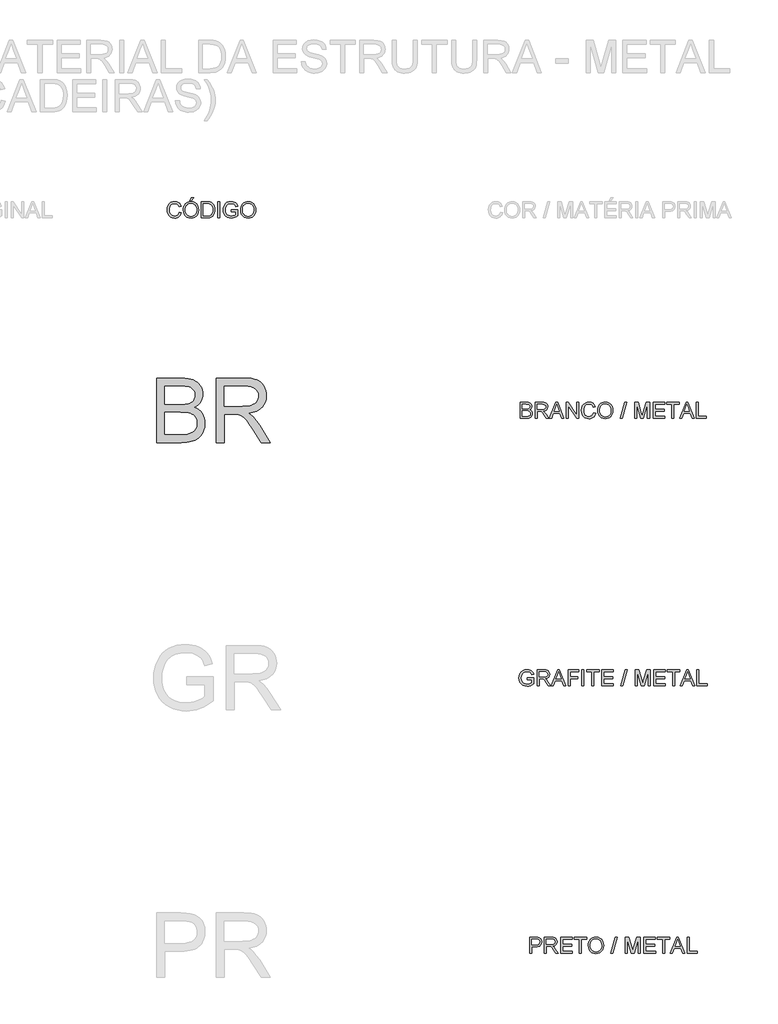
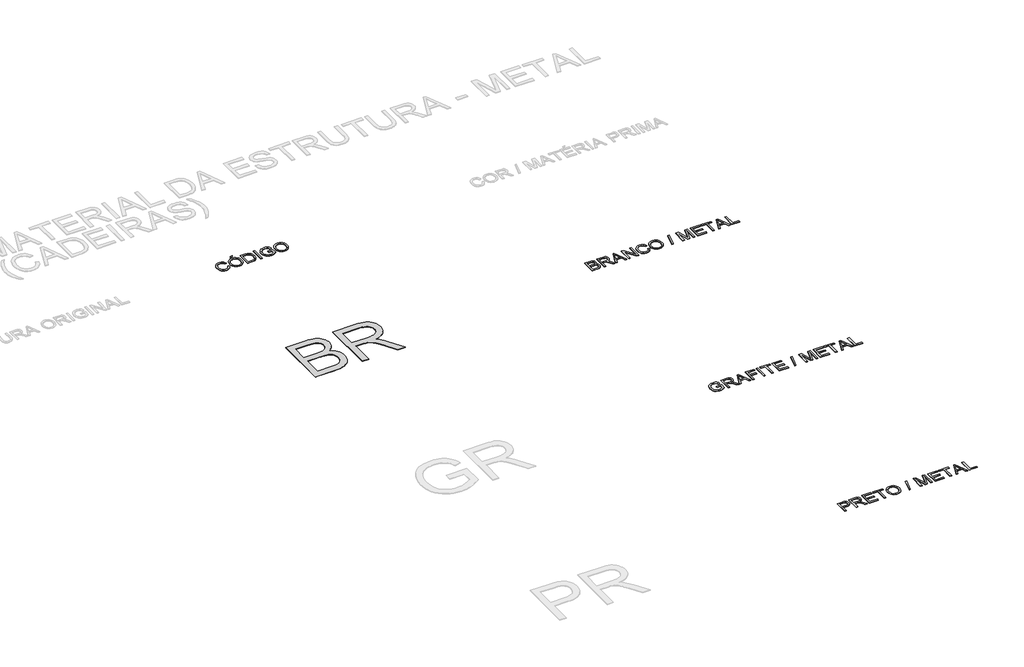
# One storey, part 28 of 35: 5 proxies.
"""IFC4 building model written with IfcOpenShell, lengths in millimetres."""

from ifc_helpers import new_model, si_unit, origin, origin_with_axes, place, context, project, spatial, polyline, outline, extrude, element, save

model = new_model("IFC4")

# Units and contexts
model_context = context("Model", 3, world=origin())
ifc_project = project(units=[si_unit("LENGTHUNIT", "METRE", prefix="MILLI")], contexts=[model_context])

# Site, building, storey
site = spatial("IfcSite", under=ifc_project)
building = spatial("IfcBuilding", under=site)
storey = spatial("IfcBuildingStorey", under=building, Name="Marelli - Linha YOU - Planta Baixa", Elevation=0.0)

# Proxies
placement = place(None, origin())
element("IfcBuildingElementProxy", 1, Name="1200mm Arial", ObjectType="1200mm Arial", at=placement, inside=storey, context=model_context, shape_type="SweptSolid", body=[
    extrude(outline(polyline([(-124.6247047, -20480.5663201), (-124.6247047, -19275.0905983), (335.374942, -19275.0905983), (402.0995389, -19277.3070873), (461.8895602, -19283.9565544), (514.7450058, -19295.0389995), (560.6658759, -19310.5544226), (600.8201956, -19330.6683707), (636.3759905, -19355.5463906), (667.3332604, -19385.1884824), (693.6920053, -19419.594646), (714.7440525, -19456.8243039), (729.7812291, -19494.9368786), (738.803535, -19533.9323701), (741.8109703, -19573.8107784), (739.2817816, -19610.6449631), (731.6942154, -19646.393896), (719.0482718, -19681.057577), (701.3439508, -19714.6360061), (678.5260701, -19746.0807196), (650.5394473, -19774.3432539), (617.3840825, -19799.4236089), (579.0599756, -19821.3217847), (624.5393873, -19840.7091659), (664.4453867, -19865.9090825), (698.7779739, -19896.9215347), (727.5371489, -19933.7465224), (750.2630591, -19975.2620056), (766.4958522, -20020.3459441), (776.235528, -20068.998338), (779.4820866, -20121.2191872), (777.2655976, -20164.0130603), (770.6161305, -20205.2802231), (759.5336854, -20245.0206756), (744.0182623, -20283.2344179), (725.2286894, -20318.5326953), (704.323795, -20349.5267534), (681.3035791, -20376.2165921), (656.1680418, -20398.6022115), (628.3285718, -20417.6033166), (597.196558, -20434.1396123), (562.7720003, -20448.2110986), (525.0548987, -20459.8177755), (483.4566421, -20468.8952638), (437.3886193, -20475.3791839), (331.8432749, -20480.5663201), (-124.6247047, -20480.5663201)]), holes=[polyline([(26.0597605, -19764.8151103), (301.2354929, -19764.8151103), (397.4734228, -19761.5777487), (461.9263484, -19751.865664), (492.0282926, -19742.0892), (518.1755054, -19729.5352269), (540.3679868, -19714.2037448), (558.6057367, -19696.0947536), (572.8335729, -19675.337012), (582.996313, -19652.0592787), (589.093957, -19626.2615538), (591.1265051, -19597.9438372), (589.2319128, -19570.8309342), (583.548136, -19545.4102883), (574.0751746, -19521.6818996), (560.8130287, -19499.6457681), (544.0192156, -19480.1204312), (523.9512528, -19463.9244264), (500.6091402, -19451.0577536), (473.9928778, -19441.5204129), (440.6995572, -19434.6318225), (397.32627, -19429.7114008), (280.3397955, -19425.7750635), (26.0597605, -19425.7750635), (26.0597605, -19764.8151103)]), polyline([(26.0597605, -20329.8818548), (335.0806364, -20329.8818548), (402.7709235, -20328.4103269), (446.916763, -20323.9957429), (498.8249125, -20310.9359321), (541.5360121, -20291.180669), (576.2640725, -20262.8905435), (604.2231041, -20224.2261458), (614.9744554, -20201.4358562), (622.6539921, -20176.9165212), (627.261714, -20150.6681409), (628.7976214, -20122.6907152), (626.9949996, -20090.0963704), (621.5871343, -20059.7093176), (612.5740254, -20031.5295568), (599.955673, -20005.5570879), (583.2998156, -19982.536872), (562.1741921, -19963.2138703), (536.5788022, -19947.5880825), (506.5136462, -19935.6595088), (470.6543487, -19926.839538), (427.6765346, -19920.5395588), (320.3653566, -19915.4995755), (26.0597605, -19915.4995755), (26.0597605, -20329.8818548)])]), origin_with_axes(), (0.0, 0.0, 1.0), 10.0),
    extrude(outline(polyline([(986.6732263, -20480.5663201), (986.6732263, -19275.0905983), (1506.1226035, -19275.0905983), (1580.6830868, -19277.1231463), (1645.7338206, -19283.2207904), (1701.2748049, -19293.3835305), (1747.3060395, -19307.6113666), (1786.5038661, -19326.9987478), (1821.5446261, -19352.6401229), (1852.4283196, -19384.5354918), (1879.1549466, -19422.6848547), (1900.7220286, -19465.0372694), (1916.1270871, -19509.5417938), (1925.3701222, -19556.1984278), (1928.4511339, -19605.0071715), (1923.3467713, -19666.9217113), (1908.0336832, -19723.7594796), (1882.5118698, -19775.5204763), (1846.781331, -19822.2047015), (1824.9728265, -19843.2705442), (1800.3822144, -19862.3222331), (1742.8546674, -19894.383149), (1674.19869, -19918.3874491), (1594.4142823, -19934.3351336), (1644.0783517, -19966.7823256), (1680.0572108, -19998.7880592), (1741.7878096, -20071.9965762), (1802.1940332, -20153.8871084), (2003.2047554, -20480.5663201), (1828.0929257, -20480.5663201), (1671.2280429, -20230.7008689), (1608.4673745, -20135.3458558), (1557.9203884, -20065.3011239), (1515.7978999, -20017.0717943), (1478.3107246, -19987.1629881), (1442.8101121, -19969.615017), (1406.647312, -19958.4681925), (1371.4042168, -19954.495067), (1319.2385499, -19953.1706918), (1137.3576915, -19953.1706918), (1137.3576915, -20480.5663201), (986.6732263, -20480.5663201)]), holes=[polyline([(1137.3576915, -19802.4862266), (1474.6319047, -19802.4862266), (1571.495234, -19797.1519376), (1611.7875095, -19790.4840765), (1646.6535256, -19781.1490708), (1676.8750315, -19768.8802063), (1703.2337765, -19753.4107684), (1725.7297605, -19734.7407571), (1744.3629836, -19712.8701725), (1758.9770958, -19688.8750694), (1769.4157474, -19663.8315026), (1775.6789384, -19637.7394721), (1777.7666687, -19610.5989779), (1773.7843461, -19572.0633389), (1761.8373783, -19537.0961552), (1741.9257653, -19505.6974269), (1714.0495071, -19477.867154), (1677.5648103, -19455.0768644), (1631.8278812, -19438.7980861), (1576.83872, -19429.0308192), (1512.5973266, -19425.7750635), (1137.3576915, -19425.7750635), (1137.3576915, -19802.4862266)])]), origin_with_axes(), (0.0, 0.0, 1.0), 10.0),
])
element("IfcBuildingElementProxy", 2, Name="300mm Arial", ObjectType="300mm Arial", at=placement, inside=storey, context=model_context, shape_type="SweptSolid", body=[
    extrude(outline(polyline([(6847.979667, -30030.5663201), (6847.979667, -29729.1973896), (6959.6686407, -29729.1973896), (7004.6973969, -29732.0668692), (7024.7745568, -29737.4287493), (7041.3016554, -29746.1567496), (7054.6097866, -29758.6463433), (7065.0300441, -29775.2930036), (7071.7622846, -29794.9287051), (7074.0063648, -29816.3854225), (7072.4911508, -29834.8852883), (7067.9455089, -29851.9044291), (7060.3694391, -29867.4428449), (7049.7629413, -29881.5005356), (7035.2017121, -29893.1531978), (7015.7614479, -29901.476528), (6991.4421488, -29906.470526), (6962.2438147, -29908.1351921), (6885.6507833, -29908.1351921), (6885.6507833, -30030.5663201), (6847.979667, -30030.5663201)]), holes=[polyline([(6885.6507833, -29870.4640758), (6964.4511066, -29870.4640758), (6997.8547918, -29867.005985), (7019.9277115, -29856.6317127), (7032.2333643, -29839.9850525), (7036.3352485, -29817.7097977), (7033.9164244, -29800.7872259), (7026.659952, -29786.5134045), (7015.4671423, -29775.7712502), (7001.2393062, -29769.4436799), (6963.5681899, -29766.8685059), (6885.6507833, -29766.8685059), (6885.6507833, -29870.4640758)])]), origin_with_axes(), (0.0, 0.0, 1.0), 10.0),
    extrude(outline(polyline([(7125.8041497, -30030.5663201), (7125.8041497, -29729.1973896), (7255.666494, -29729.1973896), (7290.5692983, -29731.2299376), (7315.962353, -29737.3275817), (7334.5219997, -29748.5847708), (7348.9245798, -29766.0959537), (7358.1676149, -29787.8101885), (7361.2486266, -29811.6765329), (7356.144264, -29841.3646099), (7340.8311759, -29865.9759154), (7329.2313967, -29876.0052983), (7314.84951, -29884.0205273), (7277.7394137, -29894.0085235), (7299.1501459, -29910.1217548), (7329.6843515, -29948.8965171), (7379.937032, -30030.5663201), (7336.1590746, -30030.5663201), (7296.9428539, -29968.0999573), (7268.6159403, -29926.750021), (7248.7135243, -29907.2154871), (7230.7976712, -29900.0417882), (7208.9454806, -29898.717413), (7163.475266, -29898.717413), (7163.475266, -30030.5663201), (7125.8041497, -30030.5663201)]), holes=[polyline([(7163.475266, -29861.0462967), (7247.7938193, -29861.0462967), (7272.0096517, -29859.7127245), (7290.7992246, -29855.7120078), (7304.9442873, -29848.7774322), (7315.226589, -29838.6422832), (7321.48978, -29826.3826157), (7323.5775103, -29813.0744845), (7319.5951877, -29794.6987789), (7307.6482199, -29779.8915286), (7287.0928135, -29770.1242616), (7257.2851748, -29766.8685059), (7163.475266, -29766.8685059), (7163.475266, -29861.0462967)])]), origin_with_axes(), (0.0, 0.0, 1.0), 10.0),
    extrude(outline(polyline([(7427.1730802, -30030.5663201), (7427.1730802, -29729.1973896), (7643.7819989, -29729.1973896), (7643.7819989, -29766.8685059), (7464.8441965, -29766.8685059), (7464.8441965, -29856.3374072), (7634.3642199, -29856.3374072), (7634.3642199, -29894.0085235), (7464.8441965, -29894.0085235), (7464.8441965, -29992.8952038), (7648.4908885, -29992.8952038), (7648.4908885, -30030.5663201), (7427.1730802, -30030.5663201)])), origin_with_axes(), (0.0, 0.0, 1.0), 10.0),
    extrude(outline(polyline([(7780.3397955, -30030.5663201), (7780.3397955, -29766.8685059), (7681.4531152, -29766.8685059), (7681.4531152, -29729.1973896), (7916.8975922, -29729.1973896), (7916.8975922, -29766.8685059), (7818.0109119, -29766.8685059), (7818.0109119, -30030.5663201), (7780.3397955, -30030.5663201)])), origin_with_axes(), (0.0, 0.0, 1.0), 10.0),
    extrude(outline(polyline([(7945.1509294, -29883.8549804), (7947.661724, -29848.5061192), (7955.1941079, -29817.213157), (7967.7480809, -29789.9760937), (7985.3236433, -29766.7949295), (8006.8677326, -29748.2858666), (8031.3272868, -29735.0651074), (8058.7023057, -29727.1326519), (8088.9927895, -29724.4885001), (8128.5217099, -29729.454907), (8163.9671401, -29744.3541278), (8193.3976997, -29768.1376988), (8214.8820082, -29799.7571563), (8228.0153955, -29837.68579), (8232.3931912, -29880.3968896), (8227.7854692, -29923.6782064), (8213.9623033, -29962.140269), (8191.6870485, -29993.8149088), (8161.7230599, -30016.733957), (8126.5811324, -30030.6398965), (8088.7720603, -30035.2752096), (8048.6361346, -30030.1524528), (8012.9883693, -30014.7841825), (7983.6313861, -29990.5591531), (7962.3678068, -29958.8661192), (7949.4551487, -29922.3998164), (7945.1509294, -29883.8549804)]), holes=[polyline([(7982.8220457, -29884.2228624), (7984.7051417, -29909.1974513), (7990.3544295, -29931.3669401), (7999.7699094, -29950.7313286), (8012.9515811, -29967.2906169), (8028.9751412, -29980.5527628), (8046.9162863, -29990.0257242), (8066.7750163, -29995.709501), (8088.5513311, -29997.6040933), (8110.7001265, -29995.6911069), (8130.7933812, -29989.9521478), (8148.8310953, -29980.3872159), (8164.8132687, -29966.9963113), (8177.8983714, -29950.0875351), (8187.2448734, -29929.9689885), (8192.8527745, -29906.6406715), (8194.7220749, -29880.102584), (8191.5215016, -29846.7540812), (8181.9197815, -29817.9305269), (8166.165235, -29794.358488), (8144.5061826, -29776.7645316), (8118.3773639, -29765.8108452), (8089.2135187, -29762.1596164), (8068.1936612, -29763.9185522), (8048.6913169, -29769.1953595), (8030.7064859, -29777.9900385), (8014.2391681, -29790.302589), (8000.494177, -29806.7262208), (7990.6763263, -29827.8541437), (7984.7856158, -29853.6863575), (7982.8220457, -29884.2228624)])]), origin_with_axes(), (0.0, 0.0, 1.0), 10.0),
    extrude(outline(polyline([(8368.9509878, -30030.5663201), (8453.7109995, -29729.1973896), (8487.7032959, -29729.1973896), (8402.9432842, -30030.5663201), (8368.9509878, -30030.5663201)])), origin_with_axes(), (0.0, 0.0, 1.0), 10.0),
    extrude(outline(polyline([(8637.3576915, -30030.5663201), (8637.3576915, -29729.1973896), (8702.1784991, -29729.1973896), (8763.8355215, -29941.6124536), (8776.2699329, -29985.9790223), (8789.7344139, -29937.9336337), (8850.3613667, -29729.1973896), (8915.1821743, -29729.1973896), (8915.1821743, -30030.5663201), (8877.511058, -30030.5663201), (8877.511058, -29766.8685059), (8801.8009434, -30030.5663201), (8750.7389224, -30030.5663201), (8675.0288078, -29766.8685059), (8675.0288078, -30030.5663201), (8637.3576915, -30030.5663201)])), origin_with_axes(), (0.0, 0.0, 1.0), 10.0),
    extrude(outline(polyline([(8981.1066278, -30030.5663201), (8981.1066278, -29729.1973896), (9197.7155466, -29729.1973896), (9197.7155466, -29766.8685059), (9018.7777441, -29766.8685059), (9018.7777441, -29856.3374072), (9188.2977675, -29856.3374072), (9188.2977675, -29894.0085235), (9018.7777441, -29894.0085235), (9018.7777441, -29992.8952038), (9202.4244361, -29992.8952038), (9202.4244361, -30030.5663201), (8981.1066278, -30030.5663201)])), origin_with_axes(), (0.0, 0.0, 1.0), 10.0),
    extrude(outline(polyline([(9334.2733432, -30030.5663201), (9334.2733432, -29766.8685059), (9235.3866629, -29766.8685059), (9235.3866629, -29729.1973896), (9470.8311398, -29729.1973896), (9470.8311398, -29766.8685059), (9371.9444595, -29766.8685059), (9371.9444595, -30030.5663201), (9334.2733432, -30030.5663201)])), origin_with_axes(), (0.0, 0.0, 1.0), 10.0),
    extrude(outline(polyline([(9478.1152033, -30030.5663201), (9598.4126157, -29729.1973896), (9630.4919257, -29729.1973896), (9750.7893381, -30030.5663201), (9710.9845062, -30030.5663201), (9676.4771751, -29936.3885293), (9552.3537899, -29936.3885293), (9517.9200352, -30030.5663201), (9478.1152033, -30030.5663201)]), holes=[polyline([(9566.1861529, -29898.717413), (9662.7183885, -29898.717413), (9635.5686972, -29824.6259792), (9614.4522707, -29766.8685059), (9595.6902889, -29818.1512561), (9566.1861529, -29898.717413)])]), origin_with_axes(), (0.0, 0.0, 1.0), 10.0),
    extrude(outline(polyline([(9791.0356284, -30030.5663201), (9791.0356284, -29729.1973896), (9828.7067447, -29729.1973896), (9828.7067447, -29992.8952038), (9979.3912099, -29992.8952038), (9979.3912099, -30030.5663201), (9791.0356284, -30030.5663201)])), origin_with_axes(), (0.0, 0.0, 1.0), 10.0),
])
element("IfcBuildingElementProxy", 3, Name="300mm Arial", ObjectType="300mm Arial", at=placement, inside=storey, context=model_context, shape_type="SweptSolid", body=[
    extrude(outline(polyline([(299.1753537, -16173.4390831), (336.84647, -16183.1511677), (329.3922611, -16206.5783531), (319.4640457, -16227.0486868), (307.061824, -16244.5621691), (292.1855958, -16259.1187997), (275.1710535, -16270.5622291), (256.3538895, -16278.7361071), (235.7341036, -16283.640434), (213.311696, -16285.2752096), (169.616512, -16280.3271968), (134.9160429, -16265.4831583), (108.3181746, -16241.2581289), (88.9307935, -16208.1671434), (77.0941903, -16169.2636224), (73.1486559, -16127.6009865), (77.6092251, -16083.6574822), (90.9909326, -16045.7104543), (112.5948028, -16014.9647166), (141.7218598, -15992.6250824), (176.2659791, -15979.0226457), (214.1210364, -15974.4885001), (255.4249874, -15980.3562179), (273.3937236, -15987.6908652), (289.5736336, -15997.9593714), (303.698003, -16010.8904235), (315.5001172, -16026.2127086), (332.1375805, -16064.0309777), (294.4664642, -16073.0072984), (281.4066533, -16045.5357104), (263.5643766, -16026.6909552), (240.7189047, -16015.7924511), (212.6495084, -16012.1596164), (180.294287, -16016.1879242), (153.7148128, -16028.2728478), (133.5456824, -16047.1451941), (120.4214922, -16071.5357704), (113.2202022, -16099.1085259), (110.8197722, -16127.5274101), (113.6616606, -16162.3290468), (122.1873258, -16192.421794), (136.7186646, -16216.6560205), (157.5775738, -16233.8820949), (182.5843524, -16244.1735937), (209.5592997, -16247.6040933), (241.0040132, -16242.931992), (267.2064083, -16228.9156879), (286.9892626, -16205.7023341), (299.1753537, -16173.4390831)])), origin_with_axes(), (0.0, 0.0, 1.0), 10.0),
    extrude(outline(polyline([(374.5175863, -16133.8549804), (377.0283809, -16098.5061192), (384.5607648, -16067.213157), (397.1147379, -16039.9760937), (414.6903002, -16016.7949295), (436.2343895, -15998.2858666), (460.6939437, -15985.0651074), (488.0689626, -15977.1326519), (518.3594464, -15974.4885001), (557.8883668, -15979.454907), (593.333797, -15994.3541278), (622.7643567, -16018.1376988), (644.2486652, -16049.7571563), (657.3820524, -16087.68579), (661.7598481, -16130.3968896), (657.1521262, -16173.6782064), (643.3289602, -16212.140269), (621.0537054, -16243.8149088), (591.0897169, -16266.733957), (555.9477893, -16280.6398965), (518.1387172, -16285.2752096), (478.0027916, -16280.1524528), (442.3550262, -16264.7841825), (412.998043, -16240.5591531), (391.7344637, -16208.8661192), (378.8218057, -16172.3998164), (374.5175863, -16133.8549804)]), holes=[polyline([(412.1887026, -16134.2228624), (414.0717986, -16159.1974513), (419.7210865, -16181.3669401), (429.1365663, -16200.7313286), (442.318238, -16217.2906169), (458.3417982, -16230.5527628), (476.2829432, -16240.0257242), (496.1416732, -16245.709501), (517.917988, -16247.6040933), (540.0667834, -16245.6911069), (560.1600381, -16239.9521478), (578.1977522, -16230.3872159), (594.1799256, -16216.9963113), (607.2650283, -16200.0875351), (616.6115303, -16179.9689885), (622.2194315, -16156.6406715), (624.0887318, -16130.102584), (620.8881585, -16096.7540812), (611.2864384, -16067.9305269), (595.531892, -16044.358488), (573.8728395, -16026.7645316), (547.7440208, -16015.8108452), (518.5801756, -16012.1596164), (497.5603181, -16013.9185522), (478.0579739, -16019.1953595), (460.0731428, -16027.9900385), (443.605825, -16040.302589), (429.860834, -16056.7262208), (420.0429832, -16077.8541437), (414.1522728, -16103.6863575), (412.1887026, -16134.2228624)])]), origin_with_axes(), (0.0, 0.0, 1.0), 10.0),
    extrude(outline(polyline([(492.2398248, -15960.3618315), (520.493162, -15903.855157), (567.5820574, -15903.855157), (520.493162, -15960.3618315), (492.2398248, -15960.3618315)])), origin_with_axes(), (0.0, 0.0, 1.0), 10.0),
    extrude(outline(polyline([(713.5576331, -16280.5663201), (713.5576331, -15979.1973896), (817.5210849, -15979.1973896), (871.3054326, -15983.5383972), (895.3281269, -15991.9077126), (915.5984248, -16005.0962821), (936.4389398, -16028.0521186), (951.2829783, -16056.5997614), (960.1673285, -16090.1873876), (963.1287786, -16128.2631741), (961.1238217, -16160.6091985), (955.1089511, -16189.0740679), (945.9486894, -16213.3082943), (934.5075594, -16232.9623899), (921.3373839, -16248.477813), (906.9899861, -16260.2960221), (890.5180698, -16269.0608107), (870.9743388, -16275.4159721), (822.52428, -16280.5663201), (713.5576331, -16280.5663201)]), holes=[polyline([(751.2287494, -16242.8952038), (817.8889669, -16242.8952038), (845.4617224, -16241.5340404), (866.3758139, -16237.4505502), (882.1579515, -16230.8838566), (894.3348455, -16222.0730828), (907.4222475, -16205.7667134), (917.2538938, -16184.6594839), (923.4067202, -16158.6594239), (925.4576623, -16127.6745629), (921.4385515, -16086.6189322), (909.3812191, -16056.3054558), (891.5665335, -16035.4833349), (870.275363, -16022.9017706), (848.6071135, -16018.3768221), (816.8588973, -16016.8685059), (751.2287494, -16016.8685059), (751.2287494, -16242.8952038)])]), origin_with_axes(), (0.0, 0.0, 1.0), 10.0),
    extrude(outline(polyline([(1019.6354531, -16280.5663201), (1019.6354531, -15979.1973896), (1057.3065694, -15979.1973896), (1057.3065694, -16280.5663201), (1019.6354531, -16280.5663201)])), origin_with_axes(), (0.0, 0.0, 1.0), 10.0),
    extrude(outline(polyline([(1273.9154881, -16162.8440816), (1273.9154881, -16125.1729653), (1396.3466161, -16125.1729653), (1396.3466161, -16237.8184322), (1366.5941598, -16258.5117945), (1335.9036043, -16273.355833), (1304.3485262, -16282.2953654), (1272.0025017, -16285.2752096), (1229.7420575, -16280.5387289), (1191.5467094, -16266.3292869), (1159.8168873, -16243.1435241), (1136.9530213, -16211.4780814), (1123.1298553, -16173.4942654), (1118.5221334, -16131.3533828), (1123.1114612, -16088.9089976), (1136.8794449, -16049.4260625), (1159.2558673, -16016.3074859), (1189.6705112, -15992.9561762), (1226.7162281, -15979.1054191), (1268.9858694, -15974.4885001), (1300.0167157, -15977.1648416), (1327.920565, -15985.1938661), (1351.4190275, -15997.9961596), (1369.2337131, -16014.9923078), (1382.4130855, -16037.0008481), (1392.0056086, -16064.8403181), (1357.2775482, -16074.6259792), (1349.5244352, -16054.7695485), (1340.0974591, -16039.7875542), (1327.6262594, -16028.493577), (1310.7404758, -16019.7011973), (1290.6081337, -16014.0450116), (1268.3972582, -16012.1596164), (1242.3971982, -16014.1921644), (1220.1679286, -16020.2898085), (1201.792223, -16029.6891935), (1187.3528547, -16041.6269642), (1167.9654735, -16070.6528536), (1159.1363056, -16099.0901318), (1156.1932497, -16129.8082784), (1159.7341139, -16165.8331228), (1170.3567065, -16195.4752146), (1187.7391307, -16218.5230216), (1211.5594899, -16234.7650117), (1239.4357481, -16244.3943229), (1268.9858694, -16247.6040933), (1295.0778999, -16245.1852692), (1320.5261369, -16237.9287968), (1342.6266478, -16227.9316036), (1358.6754998, -16217.2906169), (1358.6754998, -16162.8440816), (1273.9154881, -16162.8440816)])), origin_with_axes(), (0.0, 0.0, 1.0), 10.0),
    extrude(outline(polyline([(1443.4355115, -16133.8549804), (1445.9463061, -16098.5061192), (1453.47869, -16067.213157), (1466.0326631, -16039.9760937), (1483.6082254, -16016.7949295), (1505.1523147, -15998.2858666), (1529.6118689, -15985.0651074), (1556.9868878, -15977.1326519), (1587.2773716, -15974.4885001), (1626.806292, -15979.454907), (1662.2517222, -15994.3541278), (1691.6822818, -16018.1376988), (1713.1665904, -16049.7571563), (1726.2999776, -16087.68579), (1730.6777733, -16130.3968896), (1726.0700513, -16173.6782064), (1712.2468854, -16212.140269), (1689.9716306, -16243.8149088), (1660.0076421, -16266.733957), (1624.8657145, -16280.6398965), (1587.0566424, -16285.2752096), (1546.9207167, -16280.1524528), (1511.2729514, -16264.7841825), (1481.9159682, -16240.5591531), (1460.6523889, -16208.8661192), (1447.7397308, -16172.3998164), (1443.4355115, -16133.8549804)]), holes=[polyline([(1481.1066278, -16134.2228624), (1482.9897238, -16159.1974513), (1488.6390117, -16181.3669401), (1498.0544915, -16200.7313286), (1511.2361632, -16217.2906169), (1527.2597234, -16230.5527628), (1545.2008684, -16240.0257242), (1565.0595984, -16245.709501), (1586.8359132, -16247.6040933), (1608.9847086, -16245.6911069), (1629.0779633, -16239.9521478), (1647.1156774, -16230.3872159), (1663.0978508, -16216.9963113), (1676.1829535, -16200.0875351), (1685.5294555, -16179.9689885), (1691.1373566, -16156.6406715), (1693.006657, -16130.102584), (1689.8060837, -16096.7540812), (1680.2043636, -16067.9305269), (1664.4498171, -16044.358488), (1642.7907647, -16026.7645316), (1616.661946, -16015.8108452), (1587.4981008, -16012.1596164), (1566.4782433, -16013.9185522), (1546.975899, -16019.1953595), (1528.991068, -16027.9900385), (1512.5237502, -16040.302589), (1498.7787591, -16056.7262208), (1488.9609084, -16077.8541437), (1483.070198, -16103.6863575), (1481.1066278, -16134.2228624)])]), origin_with_axes(), (0.0, 0.0, 1.0), 10.0),
])
element("IfcBuildingElementProxy", 4, Name="300mm Arial", ObjectType="300mm Arial", at=placement, inside=storey, context=model_context, shape_type="SweptSolid", body=[
    extrude(outline(polyline([(6673.7507541, -20030.5663201), (6673.7507541, -19729.1973896), (6788.7506657, -19729.1973896), (6820.3793203, -19731.4138786), (6845.0733992, -19738.0633457), (6864.0009279, -19749.3113377), (6878.3299316, -19765.3234015), (6887.3522375, -19784.1589597), (6890.3596728, -19803.8774346), (6887.8304841, -19822.0232141), (6880.2429179, -19839.0837416), (6867.5417921, -19854.0105535), (6849.6719241, -19865.7551862), (6871.0182769, -19876.9020107), (6886.7912175, -19893.8613707), (6896.5308933, -19915.5112261), (6899.7774519, -19940.7295368), (6897.5609629, -19961.7447958), (6890.9114958, -19981.2333445), (6880.987879, -19997.8064284), (6868.9489407, -20010.0752929), (6854.2060697, -20018.9596431), (6836.1706549, -20025.3791839), (6787.867749, -20030.5663201), (6673.7507541, -20030.5663201)]), holes=[polyline([(6711.4218704, -19851.6285176), (6780.2158035, -19851.6285176), (6820.3885173, -19848.3911561), (6834.4508066, -19842.8085468), (6844.5583644, -19834.4484284), (6850.6560085, -19823.4395597), (6852.6885565, -19809.9106994), (6850.7939642, -19796.7773121), (6845.1101874, -19785.3361821), (6835.8947434, -19776.4058467), (6823.4051497, -19770.8048433), (6774.9918791, -19766.8685059), (6711.4218704, -19766.8685059), (6711.4218704, -19851.6285176)]), polyline([(6711.4218704, -19992.8952038), (6788.6770893, -19992.8952038), (6816.636121, -19991.4236758), (6840.2909333, -19983.2199073), (6855.9627063, -19966.4812765), (6860.5704283, -19954.6538704), (6862.1063356, -19941.0974188), (6860.3037138, -19925.3520694), (6854.8958485, -19911.814012), (6845.4504783, -19901.2282076), (6831.5353418, -19894.3396173), (6811.8260639, -19890.5596298), (6784.9982694, -19889.2996339), (6711.4218704, -19889.2996339), (6711.4218704, -19992.8952038)])]), origin_with_axes(), (0.0, 0.0, 1.0), 10.0),
    extrude(outline(polyline([(6951.5752368, -20030.5663201), (6951.5752368, -19729.1973896), (7081.4375811, -19729.1973896), (7116.3403854, -19731.2299376), (7141.7334401, -19737.3275817), (7160.2930868, -19748.5847708), (7174.6956669, -19766.0959537), (7183.938702, -19787.8101885), (7187.0197137, -19811.6765329), (7181.915351, -19841.3646099), (7166.602263, -19865.9759154), (7155.0024838, -19876.0052983), (7140.6205971, -19884.0205273), (7103.5105008, -19894.0085235), (7124.9212329, -19910.1217548), (7155.4554385, -19948.8965171), (7205.7081191, -20030.5663201), (7161.9301617, -20030.5663201), (7122.713941, -19968.0999573), (7094.3870273, -19926.750021), (7074.4846114, -19907.2154871), (7056.5687582, -19900.0417882), (7034.7165677, -19898.717413), (6989.2463531, -19898.717413), (6989.2463531, -20030.5663201), (6951.5752368, -20030.5663201)]), holes=[polyline([(6989.2463531, -19861.0462967), (7073.5649064, -19861.0462967), (7097.7807387, -19859.7127245), (7116.5703116, -19855.7120078), (7130.7153744, -19848.7774322), (7140.9976761, -19838.6422832), (7147.2608671, -19826.3826157), (7149.3485974, -19813.0744845), (7145.3662748, -19794.6987789), (7133.419307, -19779.8915286), (7112.8639005, -19770.1242616), (7083.0562619, -19766.8685059), (6989.2463531, -19766.8685059), (6989.2463531, -19861.0462967)])]), origin_with_axes(), (0.0, 0.0, 1.0), 10.0),
    extrude(outline(polyline([(7217.8482249, -20030.5663201), (7338.1456373, -19729.1973896), (7370.2249473, -19729.1973896), (7490.5223597, -20030.5663201), (7450.7175279, -20030.5663201), (7416.2101967, -19936.3885293), (7292.0868115, -19936.3885293), (7257.6530568, -20030.5663201), (7217.8482249, -20030.5663201)]), holes=[polyline([(7305.9191746, -19898.717413), (7402.4514101, -19898.717413), (7375.3017189, -19824.6259792), (7354.1852923, -19766.8685059), (7335.4233106, -19818.1512561), (7305.9191746, -19898.717413)])]), origin_with_axes(), (0.0, 0.0, 1.0), 10.0),
    extrude(outline(polyline([(7530.76865, -20030.5663201), (7530.76865, -19729.1973896), (7571.0885167, -19729.1973896), (7728.5420106, -19967.9528045), (7728.5420106, -19729.1973896), (7766.2131269, -19729.1973896), (7766.2131269, -20030.5663201), (7725.8932603, -20030.5663201), (7568.4397663, -19791.7373288), (7568.4397663, -20030.5663201), (7530.76865, -20030.5663201)])), origin_with_axes(), (0.0, 0.0, 1.0), 10.0),
    extrude(outline(polyline([(8044.0376097, -19923.4390831), (8081.708726, -19933.1511677), (8074.2545171, -19956.5783531), (8064.3263017, -19977.0486868), (8051.92408, -19994.5621691), (8037.0478518, -20009.1187997), (8020.0333095, -20020.5622291), (8001.2161455, -20028.7361071), (7980.5963596, -20033.640434), (7958.173952, -20035.2752096), (7914.478768, -20030.3271968), (7879.7782988, -20015.4831583), (7853.1804306, -19991.2581289), (7833.7930494, -19958.1671434), (7821.9564463, -19919.2636224), (7818.0109119, -19877.6009865), (7822.471481, -19833.6574822), (7835.8531886, -19795.7104543), (7857.4570588, -19764.9647166), (7886.5841158, -19742.6250824), (7921.1282351, -19729.0226457), (7958.9832924, -19724.4885001), (8000.2872434, -19730.3562179), (8018.2559796, -19737.6908652), (8034.4358896, -19747.9593714), (8048.560259, -19760.8904235), (8060.3623732, -19776.2127086), (8076.9998365, -19814.0309777), (8039.3287202, -19823.0072984), (8026.2689093, -19795.5357104), (8008.4266326, -19776.6909552), (7985.5811607, -19765.7924511), (7957.5117644, -19762.1596164), (7925.1565429, -19766.1879242), (7898.5770688, -19778.2728478), (7878.4079384, -19797.1451941), (7865.2837482, -19821.5357704), (7858.0824582, -19849.1085259), (7855.6820282, -19877.5274101), (7858.5239166, -19912.3290468), (7867.0495818, -19942.421794), (7881.5809206, -19966.6560205), (7902.4398297, -19983.8820949), (7927.4466084, -19994.1735937), (7954.4215557, -19997.6040933), (7985.8662692, -19992.931992), (8012.0686643, -19978.9156879), (8031.8515186, -19955.7023341), (8044.0376097, -19923.4390831)])), origin_with_axes(), (0.0, 0.0, 1.0), 10.0),
    extrude(outline(polyline([(8119.3798423, -19883.8549804), (8121.8906369, -19848.5061192), (8129.4230208, -19817.213157), (8141.9769939, -19789.9760937), (8159.5525562, -19766.7949295), (8181.0966455, -19748.2858666), (8205.5561997, -19735.0651074), (8232.9312186, -19727.1326519), (8263.2217024, -19724.4885001), (8302.7506228, -19729.454907), (8338.196053, -19744.3541278), (8367.6266126, -19768.1376988), (8389.1109212, -19799.7571563), (8402.2443084, -19837.68579), (8406.6221041, -19880.3968896), (8402.0143821, -19923.6782064), (8388.1912162, -19962.140269), (8365.9159614, -19993.8149088), (8335.9519729, -20016.733957), (8300.8100453, -20030.6398965), (8263.0009732, -20035.2752096), (8222.8650475, -20030.1524528), (8187.2172822, -20014.7841825), (8157.860299, -19990.5591531), (8136.5967197, -19958.8661192), (8123.6840616, -19922.3998164), (8119.3798423, -19883.8549804)]), holes=[polyline([(8157.0509586, -19884.2228624), (8158.9340546, -19909.1974513), (8164.5833425, -19931.3669401), (8173.9988223, -19950.7313286), (8187.180494, -19967.2906169), (8203.2040542, -19980.5527628), (8221.1451992, -19990.0257242), (8241.0039292, -19995.709501), (8262.780244, -19997.6040933), (8284.9290394, -19995.6911069), (8305.0222941, -19989.9521478), (8323.0600082, -19980.3872159), (8339.0421816, -19966.9963113), (8352.1272843, -19950.0875351), (8361.4737863, -19929.9689885), (8367.0816874, -19906.6406715), (8368.9509878, -19880.102584), (8365.7504145, -19846.7540812), (8356.1486944, -19817.9305269), (8340.394148, -19794.358488), (8318.7350955, -19776.7645316), (8292.6062768, -19765.8108452), (8263.4424316, -19762.1596164), (8242.4225741, -19763.9185522), (8222.9202298, -19769.1953595), (8204.9353988, -19777.9900385), (8188.468081, -19790.302589), (8174.72309, -19806.7262208), (8164.9052392, -19827.8541437), (8159.0145288, -19853.6863575), (8157.0509586, -19884.2228624)])]), origin_with_axes(), (0.0, 0.0, 1.0), 10.0),
    extrude(outline(polyline([(8543.1799007, -20030.5663201), (8627.9399124, -19729.1973896), (8661.9322088, -19729.1973896), (8577.1721971, -20030.5663201), (8543.1799007, -20030.5663201)])), origin_with_axes(), (0.0, 0.0, 1.0), 10.0),
    extrude(outline(polyline([(8811.5866044, -20030.5663201), (8811.5866044, -19729.1973896), (8876.407412, -19729.1973896), (8938.0644344, -19941.6124536), (8950.4988458, -19985.9790223), (8963.9633268, -19937.9336337), (9024.5902796, -19729.1973896), (9089.4110872, -19729.1973896), (9089.4110872, -20030.5663201), (9051.7399709, -20030.5663201), (9051.7399709, -19766.8685059), (8976.0298563, -20030.5663201), (8924.9678353, -20030.5663201), (8849.2577207, -19766.8685059), (8849.2577207, -20030.5663201), (8811.5866044, -20030.5663201)])), origin_with_axes(), (0.0, 0.0, 1.0), 10.0),
    extrude(outline(polyline([(9155.3355407, -20030.5663201), (9155.3355407, -19729.1973896), (9371.9444595, -19729.1973896), (9371.9444595, -19766.8685059), (9193.006657, -19766.8685059), (9193.006657, -19856.3374072), (9362.5266804, -19856.3374072), (9362.5266804, -19894.0085235), (9193.006657, -19894.0085235), (9193.006657, -19992.8952038), (9376.653349, -19992.8952038), (9376.653349, -20030.5663201), (9155.3355407, -20030.5663201)])), origin_with_axes(), (0.0, 0.0, 1.0), 10.0),
    extrude(outline(polyline([(9508.5022561, -20030.5663201), (9508.5022561, -19766.8685059), (9409.6155758, -19766.8685059), (9409.6155758, -19729.1973896), (9645.0600527, -19729.1973896), (9645.0600527, -19766.8685059), (9546.1733724, -19766.8685059), (9546.1733724, -20030.5663201), (9508.5022561, -20030.5663201)])), origin_with_axes(), (0.0, 0.0, 1.0), 10.0),
    extrude(outline(polyline([(9652.3441162, -20030.5663201), (9772.6415286, -19729.1973896), (9804.7208386, -19729.1973896), (9925.018251, -20030.5663201), (9885.2134191, -20030.5663201), (9850.706088, -19936.3885293), (9726.5827028, -19936.3885293), (9692.1489481, -20030.5663201), (9652.3441162, -20030.5663201)]), holes=[polyline([(9740.4150658, -19898.717413), (9836.9473014, -19898.717413), (9809.7976101, -19824.6259792), (9788.6811836, -19766.8685059), (9769.9192019, -19818.1512561), (9740.4150658, -19898.717413)])]), origin_with_axes(), (0.0, 0.0, 1.0), 10.0),
    extrude(outline(polyline([(9965.2645413, -20030.5663201), (9965.2645413, -19729.1973896), (10002.9356576, -19729.1973896), (10002.9356576, -19992.8952038), (10153.6201228, -19992.8952038), (10153.6201228, -20030.5663201), (9965.2645413, -20030.5663201)])), origin_with_axes(), (0.0, 0.0, 1.0), 10.0),
])
element("IfcBuildingElementProxy", 5, Name="300mm Arial", ObjectType="300mm Arial", at=placement, inside=storey, context=model_context, shape_type="SweptSolid", body=[
    extrude(outline(polyline([(6803.2452164, -24912.8440816), (6803.2452164, -24875.1729653), (6925.6763444, -24875.1729653), (6925.6763444, -24987.8184322), (6895.923888, -25008.5117945), (6865.2333325, -25023.355833), (6833.6782544, -25032.2953654), (6801.33223, -25035.2752096), (6759.0717858, -25030.5387289), (6720.8764376, -25016.3292869), (6689.1466156, -24993.1435241), (6666.2827496, -24961.4780814), (6652.4595836, -24923.4942654), (6647.8518616, -24881.3533828), (6652.4411895, -24838.9089976), (6666.2091732, -24799.4260625), (6688.5855955, -24766.3074859), (6719.0002395, -24742.9561762), (6756.0459564, -24729.1054191), (6798.3155976, -24724.4885001), (6829.3464439, -24727.1648416), (6857.2502932, -24735.1938661), (6880.7487557, -24747.9961596), (6898.5634413, -24764.9923078), (6911.7428138, -24787.0008481), (6921.3353368, -24814.8403181), (6886.6072765, -24824.6259792), (6878.8541634, -24804.7695485), (6869.4271873, -24789.7875542), (6856.9559877, -24778.493577), (6840.0702041, -24769.7011973), (6819.9378619, -24764.0450116), (6797.7269864, -24762.1596164), (6771.7269264, -24764.1921644), (6749.4976569, -24770.2898085), (6731.1219512, -24779.6891935), (6716.6825829, -24791.6269642), (6697.2952017, -24820.6528536), (6688.4660339, -24849.0901318), (6685.5229779, -24879.8082784), (6689.0638421, -24915.8331228), (6699.6864347, -24945.4752146), (6717.068859, -24968.5230216), (6740.8892182, -24984.7650117), (6768.7654764, -24994.3943229), (6798.3155976, -24997.6040933), (6824.4076281, -24995.1852692), (6849.8558651, -24987.9287968), (6871.956376, -24977.9316036), (6888.005228, -24967.2906169), (6888.005228, -24912.8440816), (6803.2452164, -24912.8440816)])), origin_with_axes(), (0.0, 0.0, 1.0), 10.0),
    extrude(outline(polyline([(6986.8919083, -25030.5663201), (6986.8919083, -24729.1973896), (7116.7542526, -24729.1973896), (7151.6570569, -24731.2299376), (7177.0501117, -24737.3275817), (7195.6097583, -24748.5847708), (7210.0123384, -24766.0959537), (7219.2553736, -24787.8101885), (7222.3363853, -24811.6765329), (7217.2320226, -24841.3646099), (7201.9189345, -24865.9759154), (7190.3191554, -24876.0052983), (7175.9372686, -24884.0205273), (7138.8271724, -24894.0085235), (7160.2379045, -24910.1217548), (7190.7721101, -24948.8965171), (7241.0247906, -25030.5663201), (7197.2468332, -25030.5663201), (7158.0306125, -24968.0999573), (7129.7036989, -24926.750021), (7109.8012829, -24907.2154871), (7091.8854298, -24900.0417882), (7070.0332393, -24898.717413), (7024.5630247, -24898.717413), (7024.5630247, -25030.5663201), (6986.8919083, -25030.5663201)]), holes=[polyline([(7024.5630247, -24861.0462967), (7108.8815779, -24861.0462967), (7133.0974103, -24859.7127245), (7151.8869832, -24855.7120078), (7166.0320459, -24848.7774322), (7176.3143477, -24838.6422832), (7182.5775386, -24826.3826157), (7184.665269, -24813.0744845), (7180.6829464, -24794.6987789), (7168.7359786, -24779.8915286), (7148.1805721, -24770.1242616), (7118.3729334, -24766.8685059), (7024.5630247, -24766.8685059), (7024.5630247, -24861.0462967)])]), origin_with_axes(), (0.0, 0.0, 1.0), 10.0),
    extrude(outline(polyline([(7253.1648965, -25030.5663201), (7373.4623089, -24729.1973896), (7405.5416189, -24729.1973896), (7525.8390313, -25030.5663201), (7486.0341994, -25030.5663201), (7451.5268683, -24936.3885293), (7327.4034831, -24936.3885293), (7292.9697283, -25030.5663201), (7253.1648965, -25030.5663201)]), holes=[polyline([(7341.2358461, -24898.717413), (7437.7680816, -24898.717413), (7410.6183904, -24824.6259792), (7389.5019639, -24766.8685059), (7370.7399821, -24818.1512561), (7341.2358461, -24898.717413)])]), origin_with_axes(), (0.0, 0.0, 1.0), 10.0),
    extrude(outline(polyline([(7566.0853216, -25030.5663201), (7566.0853216, -24729.1973896), (7768.5675717, -24729.1973896), (7768.5675717, -24766.8685059), (7603.7564379, -24766.8685059), (7603.7564379, -24856.3374072), (7745.023124, -24856.3374072), (7745.023124, -24894.0085235), (7603.7564379, -24894.0085235), (7603.7564379, -25030.5663201), (7566.0853216, -25030.5663201)])), origin_with_axes(), (0.0, 0.0, 1.0), 10.0),
    extrude(outline(polyline([(7825.0742462, -25030.5663201), (7825.0742462, -24729.1973896), (7862.7453625, -24729.1973896), (7862.7453625, -25030.5663201), (7825.0742462, -25030.5663201)])), origin_with_axes(), (0.0, 0.0, 1.0), 10.0),
    extrude(outline(polyline([(8013.4298277, -25030.5663201), (8013.4298277, -24766.8685059), (7914.5431474, -24766.8685059), (7914.5431474, -24729.1973896), (8149.9876243, -24729.1973896), (8149.9876243, -24766.8685059), (8051.100944, -24766.8685059), (8051.100944, -25030.5663201), (8013.4298277, -25030.5663201)])), origin_with_axes(), (0.0, 0.0, 1.0), 10.0),
    extrude(outline(polyline([(8192.3676301, -25030.5663201), (8192.3676301, -24729.1973896), (8408.9765489, -24729.1973896), (8408.9765489, -24766.8685059), (8230.0387464, -24766.8685059), (8230.0387464, -24856.3374072), (8399.5587698, -24856.3374072), (8399.5587698, -24894.0085235), (8230.0387464, -24894.0085235), (8230.0387464, -24992.8952038), (8413.6854384, -24992.8952038), (8413.6854384, -25030.5663201), (8192.3676301, -25030.5663201)])), origin_with_axes(), (0.0, 0.0, 1.0), 10.0),
    extrude(outline(polyline([(8554.9521246, -25030.5663201), (8639.7121363, -24729.1973896), (8673.7044326, -24729.1973896), (8588.9444209, -25030.5663201), (8554.9521246, -25030.5663201)])), origin_with_axes(), (0.0, 0.0, 1.0), 10.0),
    extrude(outline(polyline([(8823.3588283, -25030.5663201), (8823.3588283, -24729.1973896), (8888.1796358, -24729.1973896), (8949.8366582, -24941.6124536), (8962.2710696, -24985.9790223), (8975.7355507, -24937.9336337), (9036.3625035, -24729.1973896), (9101.183311, -24729.1973896), (9101.183311, -25030.5663201), (9063.5121947, -25030.5663201), (9063.5121947, -24766.8685059), (8987.8020801, -25030.5663201), (8936.7400592, -25030.5663201), (8861.0299446, -24766.8685059), (8861.0299446, -25030.5663201), (8823.3588283, -25030.5663201)])), origin_with_axes(), (0.0, 0.0, 1.0), 10.0),
    extrude(outline(polyline([(9167.1077646, -25030.5663201), (9167.1077646, -24729.1973896), (9383.7166833, -24729.1973896), (9383.7166833, -24766.8685059), (9204.7788809, -24766.8685059), (9204.7788809, -24856.3374072), (9374.2989042, -24856.3374072), (9374.2989042, -24894.0085235), (9204.7788809, -24894.0085235), (9204.7788809, -24992.8952038), (9388.4255729, -24992.8952038), (9388.4255729, -25030.5663201), (9167.1077646, -25030.5663201)])), origin_with_axes(), (0.0, 0.0, 1.0), 10.0),
    extrude(outline(polyline([(9520.2744799, -25030.5663201), (9520.2744799, -24766.8685059), (9421.3877996, -24766.8685059), (9421.3877996, -24729.1973896), (9656.8322765, -24729.1973896), (9656.8322765, -24766.8685059), (9557.9455962, -24766.8685059), (9557.9455962, -25030.5663201), (9520.2744799, -25030.5663201)])), origin_with_axes(), (0.0, 0.0, 1.0), 10.0),
    extrude(outline(polyline([(9664.11634, -25030.5663201), (9784.4137525, -24729.1973896), (9816.4930625, -24729.1973896), (9936.7904749, -25030.5663201), (9896.985643, -25030.5663201), (9862.4783118, -24936.3885293), (9738.3549267, -24936.3885293), (9703.9211719, -25030.5663201), (9664.11634, -25030.5663201)]), holes=[polyline([(9752.1872897, -24898.717413), (9848.7195252, -24898.717413), (9821.569834, -24824.6259792), (9800.4534075, -24766.8685059), (9781.6914257, -24818.1512561), (9752.1872897, -24898.717413)])]), origin_with_axes(), (0.0, 0.0, 1.0), 10.0),
    extrude(outline(polyline([(9977.0367651, -25030.5663201), (9977.0367651, -24729.1973896), (10014.7078815, -24729.1973896), (10014.7078815, -24992.8952038), (10165.3923467, -24992.8952038), (10165.3923467, -25030.5663201), (9977.0367651, -25030.5663201)])), origin_with_axes(), (0.0, 0.0, 1.0), 10.0),
])

save(model, "model.ifc")
